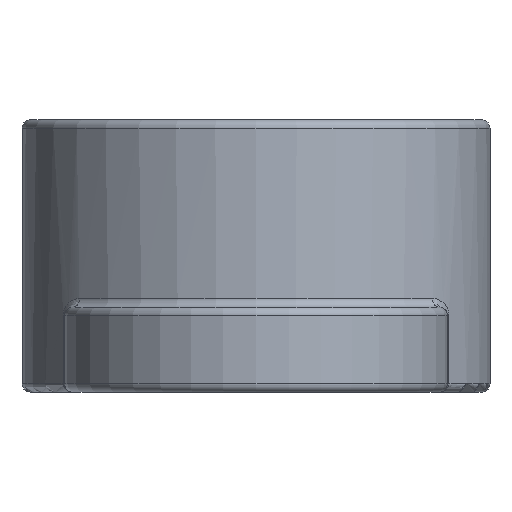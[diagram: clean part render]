
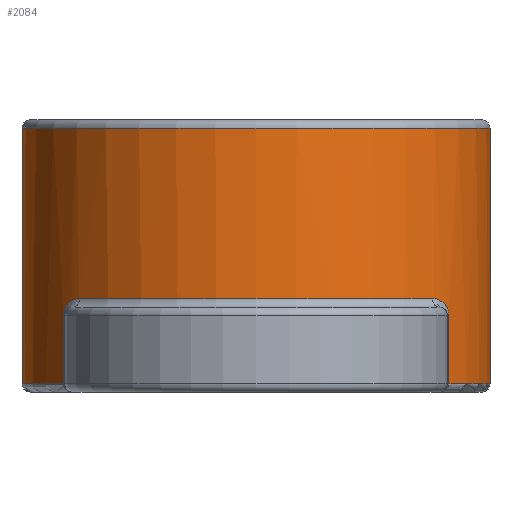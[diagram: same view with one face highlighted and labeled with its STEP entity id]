
A CAD part, front view. The second image highlights one B-rep face of the part: STEP entity #2084.
In plain terms, the highlighted cylindrical face has radius 2.75 mm (diameter 5.5 mm), a partial arc.
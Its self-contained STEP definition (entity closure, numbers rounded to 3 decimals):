
#68 = LINE ( 'NONE', #107, #1859 ) ;
#84 = CARTESIAN_POINT ( 'NONE',  ( -2.268, -1.556, 0.9 ) ) ;
#107 = CARTESIAN_POINT ( 'NONE',  ( -2.268, -1.556, 1. ) ) ;
#118 = AXIS2_PLACEMENT_3D ( 'NONE', #1862, #2593, #3722 ) ;
#265 = B_SPLINE_CURVE_WITH_KNOTS ( 'NONE', 3,
 ( #3112, #3154, #2384, #3859, #4620, #2367, #888, #2342 ),
 .UNSPECIFIED., .F., .F.,
 ( 4, 2, 2, 4 ),
 ( 0., 0., 0., 0. ),
 .UNSPECIFIED. ) ;
#299 = EDGE_CURVE ( 'NONE', #645, #974, #935, .T. ) ;
#332 = ORIENTED_EDGE ( 'NONE', *, *, #1133, .T. ) ;
#333 = CIRCLE ( 'NONE', #1480, 2.75 ) ;
#593 = CARTESIAN_POINT ( 'NONE',  ( -2.268, -1.556, 0.9 ) ) ;
#622 = CARTESIAN_POINT ( 'NONE',  ( -2.216, -1.629, 1.038 ) ) ;
#645 = VERTEX_POINT ( 'NONE', #3199 ) ;
#659 = DIRECTION ( 'NONE',  ( 0., 0., -1. ) ) ;
#762 = LINE ( 'NONE', #4256, #2965 ) ;
#776 = DIRECTION ( 'NONE',  ( 0., 0., 1. ) ) ;
#785 = DIRECTION ( 'NONE',  ( 0., 0., 1. ) ) ;
#789 = EDGE_CURVE ( 'NONE', #1272, #2945, #2808, .T. ) ;
#888 = CARTESIAN_POINT ( 'NONE',  ( 2.268, -1.556, 0.935 ) ) ;
#935 = LINE ( 'NONE', #2809, #2247 ) ;
#945 = EDGE_CURVE ( 'NONE', #1692, #1272, #265, .T. ) ;
#974 = VERTEX_POINT ( 'NONE', #1613 ) ;
#978 = EDGE_CURVE ( 'NONE', #3060, #4282, #68, .T. ) ;
#1064 = CIRCLE ( 'NONE', #4409, 2.75 ) ;
#1133 = EDGE_CURVE ( 'NONE', #2945, #974, #2462, .T. ) ;
#1249 = CARTESIAN_POINT ( 'NONE',  ( 2.268, -1.556, 0.1 ) ) ;
#1272 = VERTEX_POINT ( 'NONE', #4058 ) ;
#1352 = CARTESIAN_POINT ( 'NONE',  ( -2.162, -1.701, 1.085 ) ) ;
#1390 = ORIENTED_EDGE ( 'NONE', *, *, #4477, .T. ) ;
#1480 = AXIS2_PLACEMENT_3D ( 'NONE', #3858, #785, #3131 ) ;
#1613 = CARTESIAN_POINT ( 'NONE',  ( 2.75, 0., 0.1 ) ) ;
#1692 = VERTEX_POINT ( 'NONE', #3564 ) ;
#1723 = CARTESIAN_POINT ( 'NONE',  ( -2.119, -1.754, 1.1 ) ) ;
#1743 = ORIENTED_EDGE ( 'NONE', *, *, #3971, .T. ) ;
#1765 = ORIENTED_EDGE ( 'NONE', *, *, #2864, .T. ) ;
#1792 = CARTESIAN_POINT ( 'NONE',  ( 2.268, -1.556, 1. ) ) ;
#1859 = VECTOR ( 'NONE', #3906, 1000. ) ;
#1862 = CARTESIAN_POINT ( 'NONE',  ( 0., 0., 1. ) ) ;
#1995 = AXIS2_PLACEMENT_3D ( 'NONE', #3804, #776, #2683 ) ;
#2026 = CARTESIAN_POINT ( 'NONE',  ( -2.075, -1.805, 1.1 ) ) ;
#2084 = ADVANCED_FACE ( 'NONE', ( #4132 ), #2096, .T. ) ;
#2096 = CYLINDRICAL_SURFACE ( 'NONE', #118, 2.75 ) ;
#2168 = ORIENTED_EDGE ( 'NONE', *, *, #789, .T. ) ;
#2247 = VECTOR ( 'NONE', #3918, 1000. ) ;
#2314 = ORIENTED_EDGE ( 'NONE', *, *, #3578, .T. ) ;
#2342 = CARTESIAN_POINT ( 'NONE',  ( 2.268, -1.556, 0.9 ) ) ;
#2367 = CARTESIAN_POINT ( 'NONE',  ( 2.259, -1.569, 0.967 ) ) ;
#2384 = CARTESIAN_POINT ( 'NONE',  ( 2.162, -1.701, 1.085 ) ) ;
#2462 = CIRCLE ( 'NONE', #2562, 2.75 ) ;
#2507 = CARTESIAN_POINT ( 'NONE',  ( -2.259, -1.569, 0.967 ) ) ;
#2562 = AXIS2_PLACEMENT_3D ( 'NONE', #3178, #4751, #3937 ) ;
#2593 = DIRECTION ( 'NONE',  ( 0., 0., -1. ) ) ;
#2683 = DIRECTION ( 'NONE',  ( 1., 0., 0. ) ) ;
#2747 = DIRECTION ( 'NONE',  ( 0., 0., -1. ) ) ;
#2808 = LINE ( 'NONE', #1792, #4708 ) ;
#2809 = CARTESIAN_POINT ( 'NONE',  ( 2.75, 0., 1. ) ) ;
#2837 = CARTESIAN_POINT ( 'NONE',  ( -2.75, 0., 3.1 ) ) ;
#2861 = DIRECTION ( 'NONE',  ( 1., 0., 0. ) ) ;
#2864 = EDGE_CURVE ( 'NONE', #3012, #3294, #762, .T. ) ;
#2872 = DIRECTION ( 'NONE',  ( 0., 0., -1. ) ) ;
#2904 = CARTESIAN_POINT ( 'NONE',  ( -2.233, -1.606, 1.018 ) ) ;
#2945 = VERTEX_POINT ( 'NONE', #1249 ) ;
#2965 = VECTOR ( 'NONE', #2747, 1000. ) ;
#3012 = VERTEX_POINT ( 'NONE', #2837 ) ;
#3060 = VERTEX_POINT ( 'NONE', #3935 ) ;
#3112 = CARTESIAN_POINT ( 'NONE',  ( 2.075, -1.805, 1.1 ) ) ;
#3131 = DIRECTION ( 'NONE',  ( 1., 0., 0. ) ) ;
#3154 = CARTESIAN_POINT ( 'NONE',  ( 2.119, -1.754, 1.1 ) ) ;
#3178 = CARTESIAN_POINT ( 'NONE',  ( 0., 0., 0.1 ) ) ;
#3199 = CARTESIAN_POINT ( 'NONE',  ( 2.75, 0., 3.1 ) ) ;
#3288 = ORIENTED_EDGE ( 'NONE', *, *, #3589, .T. ) ;
#3291 = ORIENTED_EDGE ( 'NONE', *, *, #978, .T. ) ;
#3294 = VERTEX_POINT ( 'NONE', #4874 ) ;
#3360 = CIRCLE ( 'NONE', #1995, 2.75 ) ;
#3564 = CARTESIAN_POINT ( 'NONE',  ( 2.075, -1.805, 1.1 ) ) ;
#3578 = EDGE_CURVE ( 'NONE', #4450, #1692, #3360, .T. ) ;
#3589 = EDGE_CURVE ( 'NONE', #3294, #3060, #333, .T. ) ;
#3600 = CARTESIAN_POINT ( 'NONE',  ( 0., 0., 3.1 ) ) ;
#3641 = ORIENTED_EDGE ( 'NONE', *, *, #945, .T. ) ;
#3650 = EDGE_LOOP ( 'NONE', ( #4848, #1390, #1765, #3288, #3291, #1743, #2314, #3641, #2168, #332 ) ) ;
#3722 = DIRECTION ( 'NONE',  ( -1., 0., 0. ) ) ;
#3804 = CARTESIAN_POINT ( 'NONE',  ( 0., 0., 1.1 ) ) ;
#3858 = CARTESIAN_POINT ( 'NONE',  ( 0., 0., 0.1 ) ) ;
#3859 = CARTESIAN_POINT ( 'NONE',  ( 2.216, -1.629, 1.038 ) ) ;
#3906 = DIRECTION ( 'NONE',  ( 0., 0., 1. ) ) ;
#3918 = DIRECTION ( 'NONE',  ( 0., 0., -1. ) ) ;
#3935 = CARTESIAN_POINT ( 'NONE',  ( -2.268, -1.556, 0.1 ) ) ;
#3937 = DIRECTION ( 'NONE',  ( 1., 0., 0. ) ) ;
#3971 = EDGE_CURVE ( 'NONE', #4282, #4450, #4120, .T. ) ;
#4001 = CARTESIAN_POINT ( 'NONE',  ( -2.268, -1.556, 0.935 ) ) ;
#4058 = CARTESIAN_POINT ( 'NONE',  ( 2.268, -1.556, 0.9 ) ) ;
#4120 = B_SPLINE_CURVE_WITH_KNOTS ( 'NONE', 3,
 ( #593, #4001, #2507, #2904, #622, #1352, #1723, #4812 ),
 .UNSPECIFIED., .F., .F.,
 ( 4, 2, 2, 4 ),
 ( 0., 0., 0., 0. ),
 .UNSPECIFIED. ) ;
#4132 = FACE_OUTER_BOUND ( 'NONE', #3650, .T. ) ;
#4256 = CARTESIAN_POINT ( 'NONE',  ( -2.75, 0., 1. ) ) ;
#4282 = VERTEX_POINT ( 'NONE', #84 ) ;
#4409 = AXIS2_PLACEMENT_3D ( 'NONE', #3600, #2872, #2861 ) ;
#4450 = VERTEX_POINT ( 'NONE', #2026 ) ;
#4477 = EDGE_CURVE ( 'NONE', #645, #3012, #1064, .T. ) ;
#4620 = CARTESIAN_POINT ( 'NONE',  ( 2.233, -1.606, 1.018 ) ) ;
#4708 = VECTOR ( 'NONE', #659, 1000. ) ;
#4751 = DIRECTION ( 'NONE',  ( 0., 0., 1. ) ) ;
#4812 = CARTESIAN_POINT ( 'NONE',  ( -2.075, -1.805, 1.1 ) ) ;
#4848 = ORIENTED_EDGE ( 'NONE', *, *, #299, .F. ) ;
#4874 = CARTESIAN_POINT ( 'NONE',  ( -2.75, 0., 0.1 ) ) ;
